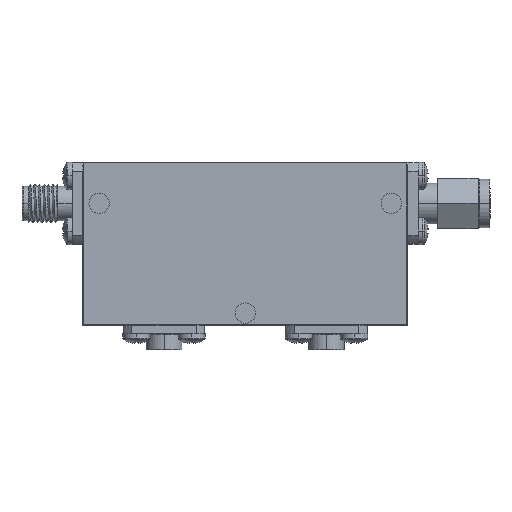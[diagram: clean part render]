
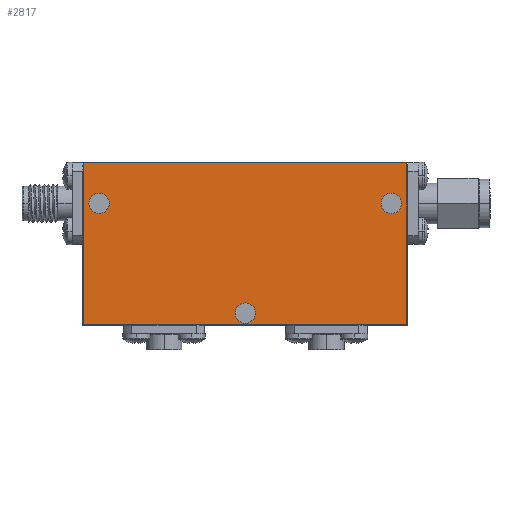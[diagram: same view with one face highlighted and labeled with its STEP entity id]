
A CAD part, top view. The second image highlights one B-rep face of the part: STEP entity #2817.
In plain terms, the highlighted planar face has unit normal (0, 0, 1).
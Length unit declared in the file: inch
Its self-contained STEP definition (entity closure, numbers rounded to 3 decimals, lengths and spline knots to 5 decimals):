
#5 = DIRECTION ( 'NONE',  ( 0., 0., 1. ) ) ;
#155 = AXIS2_PLACEMENT_3D ( 'NONE', #2796, #1825, #4429 ) ;
#282 = CARTESIAN_POINT ( 'NONE',  ( -0.995, -0.4975, 0.504 ) ) ;
#285 = DIRECTION ( 'NONE',  ( 0., -1., 0. ) ) ;
#329 = CARTESIAN_POINT ( 'NONE',  ( -0.995, 0.4975, 0.504 ) ) ;
#332 = DIRECTION ( 'NONE',  ( 1., 0., 0. ) ) ;
#344 = ORIENTED_EDGE ( 'NONE', *, *, #2102, .F. ) ;
#401 = EDGE_CURVE ( 'NONE', #1445, #875, #2487, .T. ) ;
#514 = EDGE_LOOP ( 'NONE', ( #3893, #3203, #1878, #1629 ) ) ;
#610 = AXIS2_PLACEMENT_3D ( 'NONE', #1587, #5, #3213 ) ;
#675 = VECTOR ( 'NONE', #1993, 39.37008 ) ;
#677 = CARTESIAN_POINT ( 'NONE',  ( 0.9625, 0.2475, 0.504 ) ) ;
#840 = VERTEX_POINT ( 'NONE', #3029 ) ;
#875 = VERTEX_POINT ( 'NONE', #6443 ) ;
#895 = LINE ( 'NONE', #5946, #4844 ) ;
#1142 = CARTESIAN_POINT ( 'NONE',  ( -0.995, 0.4975, 0.504 ) ) ;
#1152 = EDGE_CURVE ( 'NONE', #3460, #2353, #3061, .T. ) ;
#1301 = CIRCLE ( 'NONE', #1837, 0.0625 ) ;
#1310 = CIRCLE ( 'NONE', #3977, 0.0625 ) ;
#1327 = DIRECTION ( 'NONE',  ( 0., 0., -1. ) ) ;
#1339 = DIRECTION ( 'NONE',  ( 0., 0., 1. ) ) ;
#1349 = EDGE_CURVE ( 'NONE', #840, #4671, #5346, .T. ) ;
#1386 = AXIS2_PLACEMENT_3D ( 'NONE', #5612, #1327, #5084 ) ;
#1411 = CARTESIAN_POINT ( 'NONE',  ( -0.9, 0.2475, 0.504 ) ) ;
#1445 = VERTEX_POINT ( 'NONE', #677 ) ;
#1546 = CARTESIAN_POINT ( 'NONE',  ( -0.8375, 0.2475, 0.504 ) ) ;
#1576 = DIRECTION ( 'NONE',  ( 1., 0., 0. ) ) ;
#1587 = CARTESIAN_POINT ( 'NONE',  ( -0.9, 0.2475, 0.504 ) ) ;
#1629 = ORIENTED_EDGE ( 'NONE', *, *, #1661, .T. ) ;
#1660 = CARTESIAN_POINT ( 'NONE',  ( -0.9625, 0.2475, 0.504 ) ) ;
#1661 = EDGE_CURVE ( 'NONE', #2175, #3521, #6012, .T. ) ;
#1705 = EDGE_CURVE ( 'NONE', #3521, #6849, #895, .T. ) ;
#1825 = DIRECTION ( 'NONE',  ( 0., 0., 1. ) ) ;
#1837 = AXIS2_PLACEMENT_3D ( 'NONE', #3670, #4260, #3130 ) ;
#1878 = ORIENTED_EDGE ( 'NONE', *, *, #6562, .T. ) ;
#1924 = LINE ( 'NONE', #6178, #6384 ) ;
#1933 = ORIENTED_EDGE ( 'NONE', *, *, #401, .F. ) ;
#1965 = FACE_BOUND ( 'NONE', #3547, .T. ) ;
#1993 = DIRECTION ( 'NONE',  ( -1., 0., 0. ) ) ;
#2085 = LINE ( 'NONE', #329, #675 ) ;
#2102 = EDGE_CURVE ( 'NONE', #4671, #840, #5663, .T. ) ;
#2107 = ORIENTED_EDGE ( 'NONE', *, *, #4850, .F. ) ;
#2175 = VERTEX_POINT ( 'NONE', #282 ) ;
#2327 = DIRECTION ( 'NONE',  ( 0., 0., 1. ) ) ;
#2353 = VERTEX_POINT ( 'NONE', #1660 ) ;
#2456 = FACE_BOUND ( 'NONE', #3258, .T. ) ;
#2469 = VECTOR ( 'NONE', #1576, 39.37008 ) ;
#2487 = CIRCLE ( 'NONE', #5022, 0.0625 ) ;
#2617 = CARTESIAN_POINT ( 'NONE',  ( -0.995, -0.4975, 0.504 ) ) ;
#2693 = ORIENTED_EDGE ( 'NONE', *, *, #1152, .F. ) ;
#2746 = DIRECTION ( 'NONE',  ( 1., 0., 0. ) ) ;
#2783 = FACE_BOUND ( 'NONE', #5526, .T. ) ;
#2796 = CARTESIAN_POINT ( 'NONE',  ( 0., -0.4275, 0.504 ) ) ;
#2817 = ADVANCED_FACE ( 'NONE', ( #2783, #2456, #1965, #4238 ), #3450, .F. ) ;
#3029 = CARTESIAN_POINT ( 'NONE',  ( -0.0625, -0.4275, 0.504 ) ) ;
#3061 = CIRCLE ( 'NONE', #610, 0.0625 ) ;
#3130 = DIRECTION ( 'NONE',  ( 1., 0., 0. ) ) ;
#3203 = ORIENTED_EDGE ( 'NONE', *, *, #6525, .T. ) ;
#3213 = DIRECTION ( 'NONE',  ( 1., 0., 0. ) ) ;
#3258 = EDGE_LOOP ( 'NONE', ( #1933, #3442 ) ) ;
#3278 = DIRECTION ( 'NONE',  ( 0., 0., 1. ) ) ;
#3298 = CARTESIAN_POINT ( 'NONE',  ( 0.995, -0.4975, 0.504 ) ) ;
#3442 = ORIENTED_EDGE ( 'NONE', *, *, #3763, .F. ) ;
#3450 = PLANE ( 'NONE',  #1386 ) ;
#3460 = VERTEX_POINT ( 'NONE', #1546 ) ;
#3521 = VERTEX_POINT ( 'NONE', #3298 ) ;
#3547 = EDGE_LOOP ( 'NONE', ( #2693, #2107 ) ) ;
#3670 = CARTESIAN_POINT ( 'NONE',  ( 0.9, 0.2475, 0.504 ) ) ;
#3763 = EDGE_CURVE ( 'NONE', #875, #1445, #1301, .T. ) ;
#3821 = CARTESIAN_POINT ( 'NONE',  ( 0.0625, -0.4275, 0.504 ) ) ;
#3893 = ORIENTED_EDGE ( 'NONE', *, *, #1705, .T. ) ;
#3977 = AXIS2_PLACEMENT_3D ( 'NONE', #1411, #1339, #332 ) ;
#4238 = FACE_OUTER_BOUND ( 'NONE', #514, .T. ) ;
#4260 = DIRECTION ( 'NONE',  ( 0., 0., 1. ) ) ;
#4429 = DIRECTION ( 'NONE',  ( 1., 0., 0. ) ) ;
#4633 = ORIENTED_EDGE ( 'NONE', *, *, #1349, .F. ) ;
#4671 = VERTEX_POINT ( 'NONE', #3821 ) ;
#4844 = VECTOR ( 'NONE', #4884, 39.37008 ) ;
#4850 = EDGE_CURVE ( 'NONE', #2353, #3460, #1310, .T. ) ;
#4884 = DIRECTION ( 'NONE',  ( 0., 1., 0. ) ) ;
#5022 = AXIS2_PLACEMENT_3D ( 'NONE', #5961, #3278, #2746 ) ;
#5084 = DIRECTION ( 'NONE',  ( -1., 0., 0. ) ) ;
#5346 = CIRCLE ( 'NONE', #5770, 0.0625 ) ;
#5468 = CARTESIAN_POINT ( 'NONE',  ( 0., -0.4275, 0.504 ) ) ;
#5526 = EDGE_LOOP ( 'NONE', ( #344, #4633 ) ) ;
#5538 = VERTEX_POINT ( 'NONE', #1142 ) ;
#5612 = CARTESIAN_POINT ( 'NONE',  ( 0., 0., 0.504 ) ) ;
#5663 = CIRCLE ( 'NONE', #155, 0.0625 ) ;
#5770 = AXIS2_PLACEMENT_3D ( 'NONE', #5468, #2327, #6003 ) ;
#5784 = CARTESIAN_POINT ( 'NONE',  ( 0.995, 0.4975, 0.504 ) ) ;
#5946 = CARTESIAN_POINT ( 'NONE',  ( 0.995, -0.4975, 0.504 ) ) ;
#5961 = CARTESIAN_POINT ( 'NONE',  ( 0.9, 0.2475, 0.504 ) ) ;
#6003 = DIRECTION ( 'NONE',  ( 1., 0., 0. ) ) ;
#6012 = LINE ( 'NONE', #2617, #2469 ) ;
#6178 = CARTESIAN_POINT ( 'NONE',  ( -0.995, -0.4975, 0.504 ) ) ;
#6384 = VECTOR ( 'NONE', #285, 39.37008 ) ;
#6443 = CARTESIAN_POINT ( 'NONE',  ( 0.8375, 0.2475, 0.504 ) ) ;
#6525 = EDGE_CURVE ( 'NONE', #6849, #5538, #2085, .T. ) ;
#6562 = EDGE_CURVE ( 'NONE', #5538, #2175, #1924, .T. ) ;
#6849 = VERTEX_POINT ( 'NONE', #5784 ) ;
